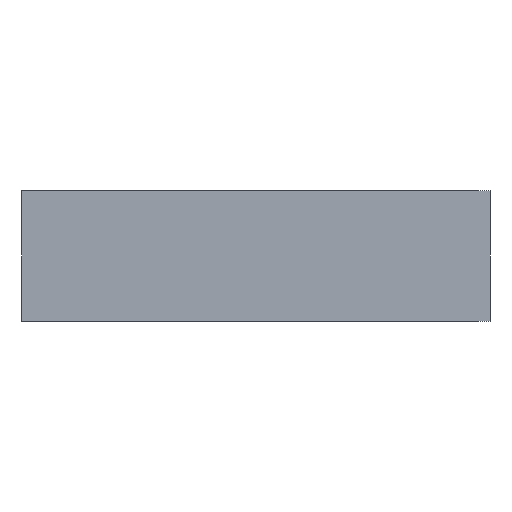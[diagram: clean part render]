
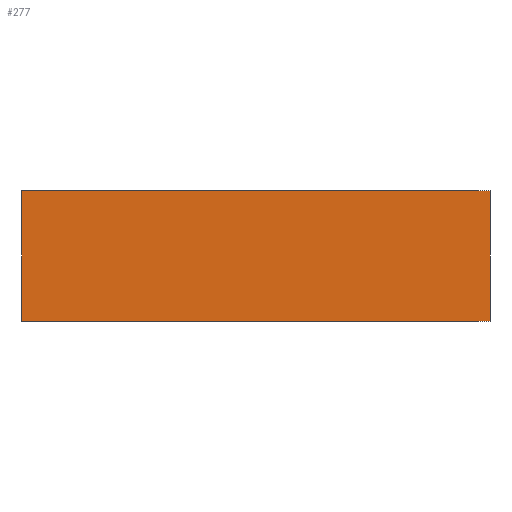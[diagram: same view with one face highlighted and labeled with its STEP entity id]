
A CAD part, left-side view. The second image highlights one B-rep face of the part: STEP entity #277.
In plain terms, the highlighted planar face has unit normal (-1, 0, 0).
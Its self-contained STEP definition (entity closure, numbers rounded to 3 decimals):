
#23 = LINE ( 'NONE', #166, #25 ) ;
#25 = VECTOR ( 'NONE', #165, 1000. ) ;
#69 = LINE ( 'NONE', #199, #70 ) ;
#70 = VECTOR ( 'NONE', #200, 1000. ) ;
#165 = DIRECTION ( 'NONE',  ( 0., -1., 0. ) ) ;
#166 = CARTESIAN_POINT ( 'NONE',  ( -254., 0., 0. ) ) ;
#199 = CARTESIAN_POINT ( 'NONE',  ( -254., 429., 120. ) ) ;
#200 = DIRECTION ( 'NONE',  ( 0., 0., -1. ) ) ;
#230 = DIRECTION ( 'NONE',  ( 0., -1., 0. ) ) ;
#232 = CARTESIAN_POINT ( 'NONE',  ( -254., 0., 120. ) ) ;
#277 = ADVANCED_FACE ( 'NONE', ( #864 ), #607, .F. ) ;
#304 = ORIENTED_EDGE ( 'NONE', *, *, #714, .T. ) ;
#307 = ORIENTED_EDGE ( 'NONE', *, *, #735, .T. ) ;
#324 = ORIENTED_EDGE ( 'NONE', *, *, #671, .F. ) ;
#326 = ORIENTED_EDGE ( 'NONE', *, *, #694, .F. ) ;
#414 = VERTEX_POINT ( 'NONE', #532 ) ;
#447 = DIRECTION ( 'NONE',  ( 0., 0., -1. ) ) ;
#451 = CARTESIAN_POINT ( 'NONE',  ( -254., 0., 120. ) ) ;
#478 = CARTESIAN_POINT ( 'NONE',  ( -254., 429., 0. ) ) ;
#487 = CARTESIAN_POINT ( 'NONE',  ( -254., 0., 0. ) ) ;
#488 = CARTESIAN_POINT ( 'NONE',  ( -254., 0., 120. ) ) ;
#532 = CARTESIAN_POINT ( 'NONE',  ( -254., 429., 120. ) ) ;
#597 = DIRECTION ( 'NONE',  ( 0., 1., 0. ) ) ;
#598 = DIRECTION ( 'NONE',  ( 1., 0., 0. ) ) ;
#604 = CARTESIAN_POINT ( 'NONE',  ( -254., 0., 120. ) ) ;
#607 = PLANE ( 'NONE',  #765 ) ;
#628 = VERTEX_POINT ( 'NONE', #488 ) ;
#629 = VERTEX_POINT ( 'NONE', #487 ) ;
#637 = VERTEX_POINT ( 'NONE', #478 ) ;
#671 = EDGE_CURVE ( 'NONE', #628, #629, #869, .T. ) ;
#694 = EDGE_CURVE ( 'NONE', #414, #628, #798, .T. ) ;
#714 = EDGE_CURVE ( 'NONE', #414, #637, #69, .T. ) ;
#735 = EDGE_CURVE ( 'NONE', #637, #629, #23, .T. ) ;
#765 = AXIS2_PLACEMENT_3D ( 'NONE', #604, #598, #597 ) ;
#790 = VECTOR ( 'NONE', #230, 1000. ) ;
#798 = LINE ( 'NONE', #232, #790 ) ;
#829 = VECTOR ( 'NONE', #447, 1000. ) ;
#864 = FACE_OUTER_BOUND ( 'NONE', #901, .T. ) ;
#869 = LINE ( 'NONE', #451, #829 ) ;
#901 = EDGE_LOOP ( 'NONE', ( #307, #324, #326, #304 ) ) ;
